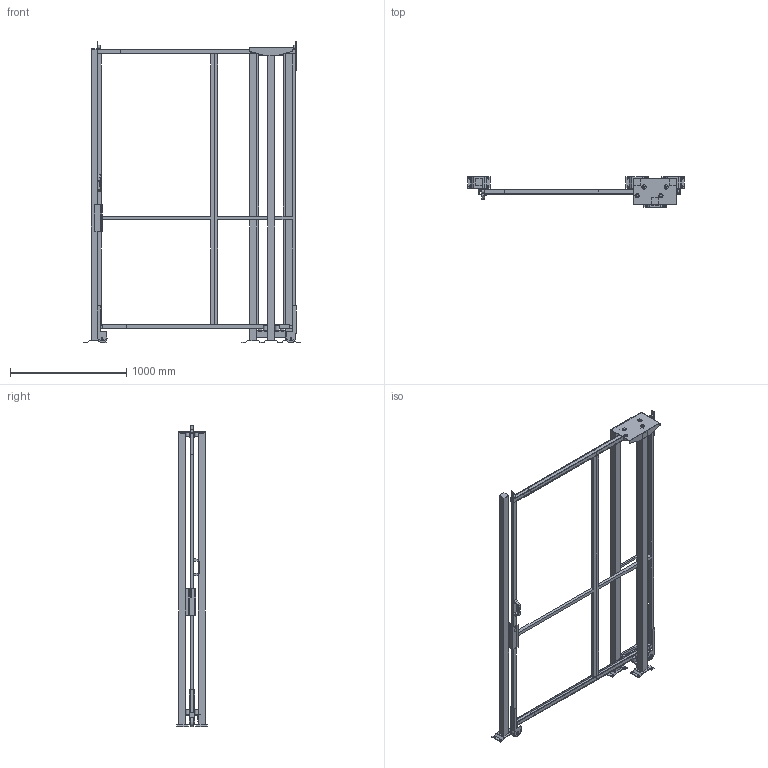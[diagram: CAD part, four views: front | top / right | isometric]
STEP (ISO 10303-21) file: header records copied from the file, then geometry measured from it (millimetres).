
FILE_DESCRIPTION(/* description */ (''),/* implementation_level */ '2;1');
FILE_NAME(/* name */ 'C:\SafeGuarding\ELABORATI\KLADKA_2025-03-20-09-54-56.stp',/* time_stamp */ '2025-03-20T09:55:00+01:00',/* author */ ('admin'),/* organization */ (''),/* preprocessor_version */ 'ST-DEVELOPER v18.1',/* originating_system */ 'AutoCAD Mechanical',/* authorisation */ '');
FILE_SCHEMA (('AUTOMOTIVE_DESIGN { 1 0 10303 214 3 1 1 }'));
Length unit declared in the file: millimetre
Products named in the file (5): Product; VFPA.REPE30.07002400; VFPA.REPE30.10002400; VFPA.REPE2002502400; P_VFMA.V360SDU.2520
Assembly tree (7 placements, depth 2):
  Product
    VFPA.REPE30.07002400
    VFPA.REPE30.10002400
    VFPA.REPE2002502400
    P_VFMA.V360SDU.2520  x4
Bounding box: 1861.97 x 264.14 x 2590.02 mm (x, y, z)
Volume: 54692054.2 mm3; surface area: 6937203.9 mm2
Topology: 48 solids, 59 shells, 501 faces, 1608 edges, 1551 vertices
Faces by surface type: plane 449, cylinder 50, sphere 2
Full cylindrical faces by diameter (mm): 9 x4, 11 x16, 13 x4, 30 x6, 36 x8, 80 x2
Entity records: 14680 total; most frequent: CARTESIAN_POINT 3122, DIRECTION 2224, ORIENTED_EDGE 2034, LINE 1090, VECTOR 1090, EDGE_CURVE 1066, VERTEX_POINT 750, AXIS2_PLACEMENT_3D 567
